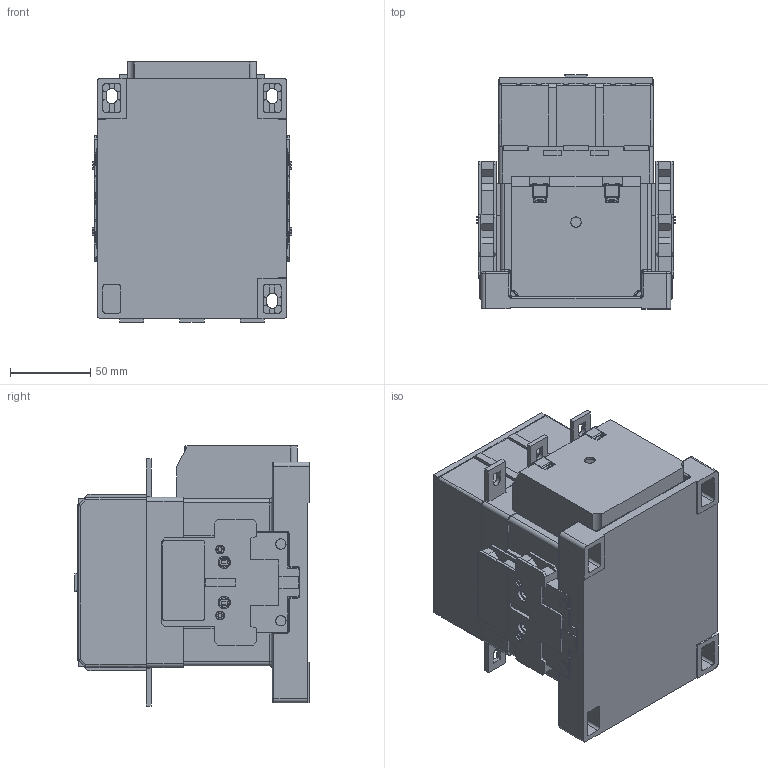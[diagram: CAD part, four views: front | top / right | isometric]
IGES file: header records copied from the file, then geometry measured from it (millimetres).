
Start section: SolidWorks IGES file using analytic representation for surfaces
Global section: file name: Q:\GROUPS\BR_SC_JGS_WA_TECNICO\ENG\Usuarios\Rodrigob\conversão\contatores\Produto\CWM112_E-CWM150_E\CWM112_E-CWM150_E.IGS; native system: SolidWorks 2012; preprocessor: SolidWorks 2012; author: rodrigob; date: 130405.100047; units: millimetre
Bounding box: 124.2 x 146 x 162 mm (x, y, z)
Surface area: 232657.4 mm2 (no closed solid volume)
Topology: 0 solids, 0 shells, 3108 faces, 28366 edges, 28332 vertices
Faces by surface type: bspline 2177, revolution 931
